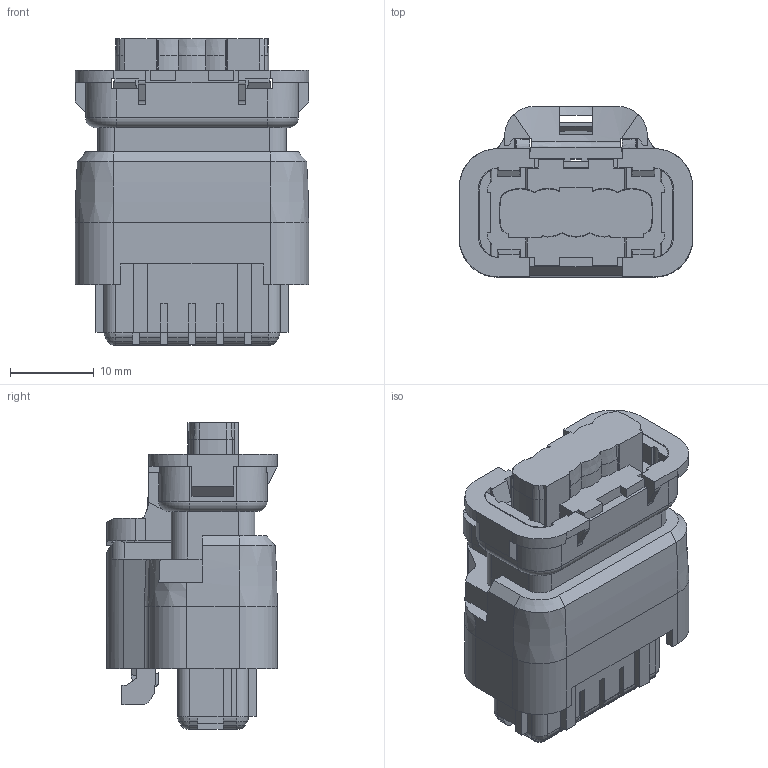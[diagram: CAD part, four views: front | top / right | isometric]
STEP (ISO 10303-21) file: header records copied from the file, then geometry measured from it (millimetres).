
FILE_DESCRIPTION(/* description */ (''),/* implementation_level */ '2;1');
FILE_NAME(/* name */ '33511729_ENV10_01.stp',/* time_stamp */ '2020-07-09T21:39:18+05:00',/* author */ (''),/* organization */ (''),/* preprocessor_version */ 'ST-DEVELOPER v16',/* originating_system */ 'SIEMENS PLM Software NX 11.0',/* authorisation */ '');
FILE_SCHEMA (('AP203_CONFIGURATION_CONTROLLED_3D_DESIGN_OF_MECHANICAL_PARTS_AND_ASSEMBLIES_MIM_LF { 1 0 10303 403 2 1 2}'));
Length unit declared in the file: millimetre
Products named in the file (1): qzs53380227A7l9b
Bounding box: 27.8 x 20.3 x 36.55 mm (x, y, z)
Volume: 9940.2 mm3; surface area: 7442.2 mm2
Topology: 1 solids, 2 shells, 849 faces, 2470 edges, 1603 vertices
Faces by surface type: plane 606, cylinder 170, cone 42, bspline 18, torus 11, sphere 2
Entity records: 28985 total; most frequent: CARTESIAN_POINT 6323, ORIENTED_EDGE 4938, DIRECTION 4498, EDGE_CURVE 2469, LINE 1820, VECTOR 1820, VERTEX_POINT 1603, AXIS2_PLACEMENT_3D 1339
